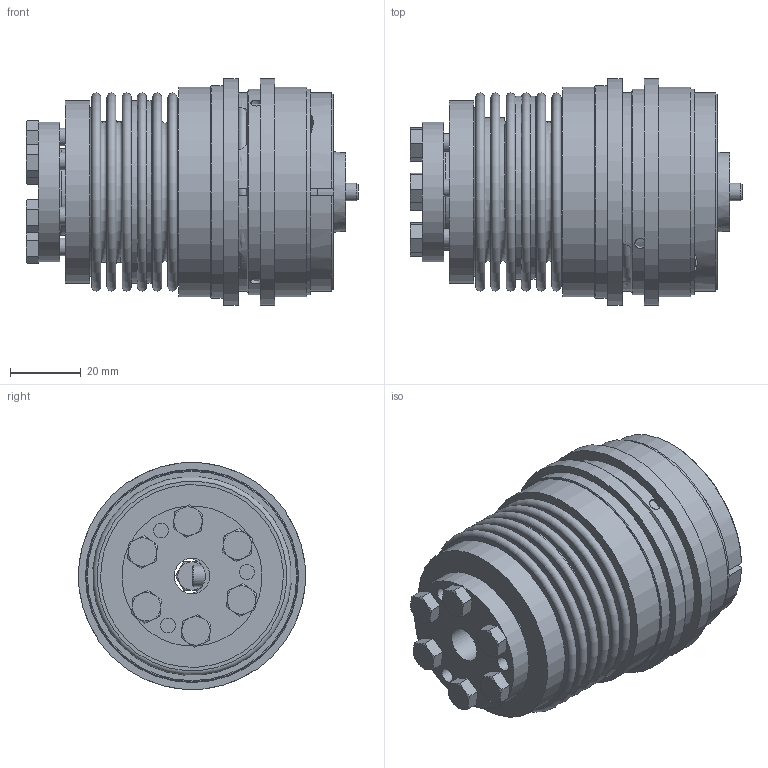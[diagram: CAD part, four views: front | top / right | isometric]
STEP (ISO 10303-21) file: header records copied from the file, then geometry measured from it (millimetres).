
FILE_DESCRIPTION( ( 'Unknown' ), '1' );
FILE_NAME( 'C:/Dokumente und Einstellungen/SKarpstein/Desktop/Korrigierte 3D Modelle/KBK-B-IK/KBK-BIK-30-88.stp', 'Unknown', ( 'Unknown' ), ( 'Unknown' ), 'XStep 1.0', 'Unknown', ' ' );
FILE_SCHEMA( ( 'automotive_design' ) );
Length unit declared in the file: millimetre
Products named in the file (13): Assem1; Assem2; Assem3; Zylinderschraube DIN 912_0_0_0; Hex Screw GradeC_DIN_ISO 4018 - M5 x 20-NN_1; KB30_Standard_1; BA30_Standard_1; Stellring 30_0; Druckring 30_0; L-K-30 Grundkörper_0; Klemmnabe 30_0; Flansch BK30; BL30_Standard_0
Bounding box: 93.55 x 64 x 64 mm (x, y, z)
Volume: 305477 mm3; surface area: 193288.9 mm2
Topology: 34 solids, 34 shells, 588 faces, 1215 edges, 778 vertices
Faces by surface type: plane 267, cylinder 139, cone 124, torus 58
Full cylindrical faces by diameter (mm): 3.242 x6, 4.2 x27, 4.917 x2, 5 x13, 5.5 x18, 6 x3, 6.4 x2, 10 x8, 11 x2, 23.9 x2, 24.4 x3, 25 x4, 30 x2, 34 x2, 37 x5, 38 x6, 39.5 x3, 40 x2, 46.5 x4, 47.3 x4, 51.5 x3, 52 x2, 58 x2, 59 x2, 60 x2, 64 x2
Entity records: 5068 total; most frequent: CARTESIAN_POINT 1209, DIRECTION 782, ORIENTED_EDGE 518, AXIS2_PLACEMENT_3D 366, EDGE_LOOP 356, EDGE_CURVE 259, FACE_OUTER_BOUND 256, VERTEX_POINT 223
